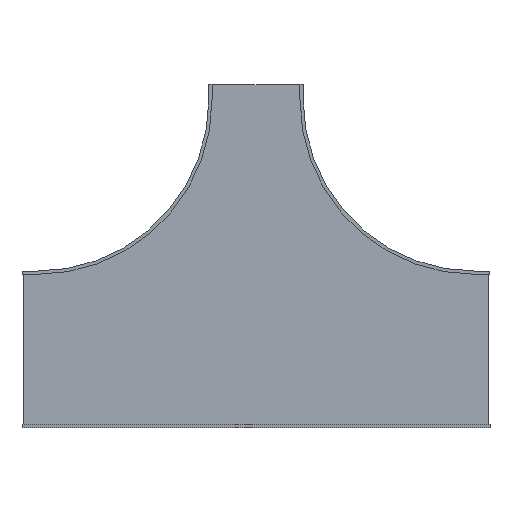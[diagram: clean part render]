
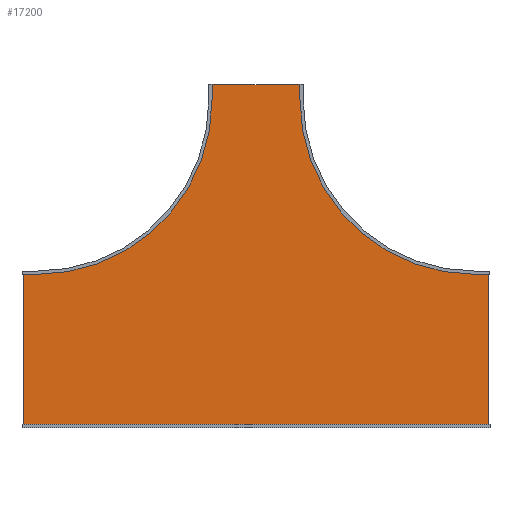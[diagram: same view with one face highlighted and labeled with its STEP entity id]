
A CAD part, front view. The second image highlights one B-rep face of the part: STEP entity #17200.
In plain terms, the highlighted planar face has unit normal (0, -1, 0).
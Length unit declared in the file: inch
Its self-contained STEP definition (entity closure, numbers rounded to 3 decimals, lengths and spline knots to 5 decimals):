
#17009=DIRECTION('',(1.,0.,0.));
#17010=VECTOR('',#17009,17.875);
#17011=CARTESIAN_POINT('',(-8.9375,0.,0.));
#17012=LINE('',#17011,#17010);
#17013=DIRECTION('',(0.,0.,-1.));
#17014=VECTOR('',#17013,2.875);
#17015=CARTESIAN_POINT('',(8.9375,0.,0.));
#17016=LINE('',#17015,#17014);
#17017=CARTESIAN_POINT('',(42.,0.,-2.875));
#17018=DIRECTION('',(0.,-1.,0.));
#17019=DIRECTION('',(-1.,0.,0.));
#17020=AXIS2_PLACEMENT_3D('',#17017,#17018,#17019);
#17022=DIRECTION('',(1.,0.,0.));
#17023=VECTOR('',#17022,2.875);
#17024=CARTESIAN_POINT('',(42.,0.,-35.9375));
#17025=LINE('',#17024,#17023);
#17026=DIRECTION('',(0.,0.,-1.));
#17027=VECTOR('',#17026,29.875);
#17028=CARTESIAN_POINT('',(44.875,0.,-35.9375));
#17029=LINE('',#17028,#17027);
#17030=DIRECTION('',(-1.,0.,0.));
#17031=VECTOR('',#17030,89.75);
#17032=CARTESIAN_POINT('',(44.875,0.,-65.8125));
#17033=LINE('',#17032,#17031);
#17034=DIRECTION('',(0.,0.,1.));
#17035=VECTOR('',#17034,29.875);
#17036=CARTESIAN_POINT('',(-44.875,0.,-65.8125));
#17037=LINE('',#17036,#17035);
#17038=DIRECTION('',(1.,0.,0.));
#17039=VECTOR('',#17038,2.875);
#17040=CARTESIAN_POINT('',(-44.875,0.,-35.9375));
#17041=LINE('',#17040,#17039);
#17042=CARTESIAN_POINT('',(-42.,0.,-2.875));
#17043=DIRECTION('',(0.,-1.,0.));
#17044=DIRECTION('',(0.,0.,-1.));
#17045=AXIS2_PLACEMENT_3D('',#17042,#17043,#17044);
#17047=DIRECTION('',(0.,0.,1.));
#17048=VECTOR('',#17047,2.875);
#17049=CARTESIAN_POINT('',(-8.9375,0.,-2.875));
#17050=LINE('',#17049,#17048);
#17133=CARTESIAN_POINT('',(-8.9375,0.,0.));
#17134=CARTESIAN_POINT('',(8.9375,0.,0.));
#17135=VERTEX_POINT('',#17133);
#17136=VERTEX_POINT('',#17134);
#17137=CARTESIAN_POINT('',(8.9375,0.,-2.875));
#17138=VERTEX_POINT('',#17137);
#17139=CARTESIAN_POINT('',(42.,0.,-35.9375));
#17140=VERTEX_POINT('',#17139);
#17141=CARTESIAN_POINT('',(44.875,0.,-35.9375));
#17142=VERTEX_POINT('',#17141);
#17143=CARTESIAN_POINT('',(44.875,0.,-65.8125));
#17144=VERTEX_POINT('',#17143);
#17145=CARTESIAN_POINT('',(-44.875,0.,-65.8125));
#17146=VERTEX_POINT('',#17145);
#17147=CARTESIAN_POINT('',(-44.875,0.,-35.9375));
#17148=VERTEX_POINT('',#17147);
#17149=CARTESIAN_POINT('',(-42.,0.,-35.9375));
#17150=VERTEX_POINT('',#17149);
#17151=CARTESIAN_POINT('',(-8.9375,0.,-2.875));
#17152=VERTEX_POINT('',#17151);
#17173=CARTESIAN_POINT('',(0.,0.,0.));
#17174=DIRECTION('',(0.,1.,0.));
#17175=DIRECTION('',(1.,0.,0.));
#17176=AXIS2_PLACEMENT_3D('',#17173,#17174,#17175);
#17177=PLANE('',#17176);
#17179=ORIENTED_EDGE('',*,*,#17178,.T.);
#17181=ORIENTED_EDGE('',*,*,#17180,.T.);
#17183=ORIENTED_EDGE('',*,*,#17182,.T.);
#17185=ORIENTED_EDGE('',*,*,#17184,.T.);
#17187=ORIENTED_EDGE('',*,*,#17186,.T.);
#17189=ORIENTED_EDGE('',*,*,#17188,.T.);
#17191=ORIENTED_EDGE('',*,*,#17190,.T.);
#17193=ORIENTED_EDGE('',*,*,#17192,.T.);
#17195=ORIENTED_EDGE('',*,*,#17194,.T.);
#17197=ORIENTED_EDGE('',*,*,#17196,.T.);
#17198=EDGE_LOOP('',(#17179,#17181,#17183,#17185,#17187,#17189,#17191,#17193,
#17195,#17197));
#17199=FACE_OUTER_BOUND('',#17198,.F.);
#17200=ADVANCED_FACE('',(#17199),#17177,.F.);
#17021=CIRCLE('',#17020,33.0625);
#17046=CIRCLE('',#17045,33.0625);
#17178=EDGE_CURVE('',#17135,#17136,#17012,.T.);
#17180=EDGE_CURVE('',#17136,#17138,#17016,.T.);
#17182=EDGE_CURVE('',#17138,#17140,#17021,.T.);
#17184=EDGE_CURVE('',#17140,#17142,#17025,.T.);
#17186=EDGE_CURVE('',#17142,#17144,#17029,.T.);
#17188=EDGE_CURVE('',#17144,#17146,#17033,.T.);
#17190=EDGE_CURVE('',#17146,#17148,#17037,.T.);
#17192=EDGE_CURVE('',#17148,#17150,#17041,.T.);
#17194=EDGE_CURVE('',#17150,#17152,#17046,.T.);
#17196=EDGE_CURVE('',#17152,#17135,#17050,.T.);
